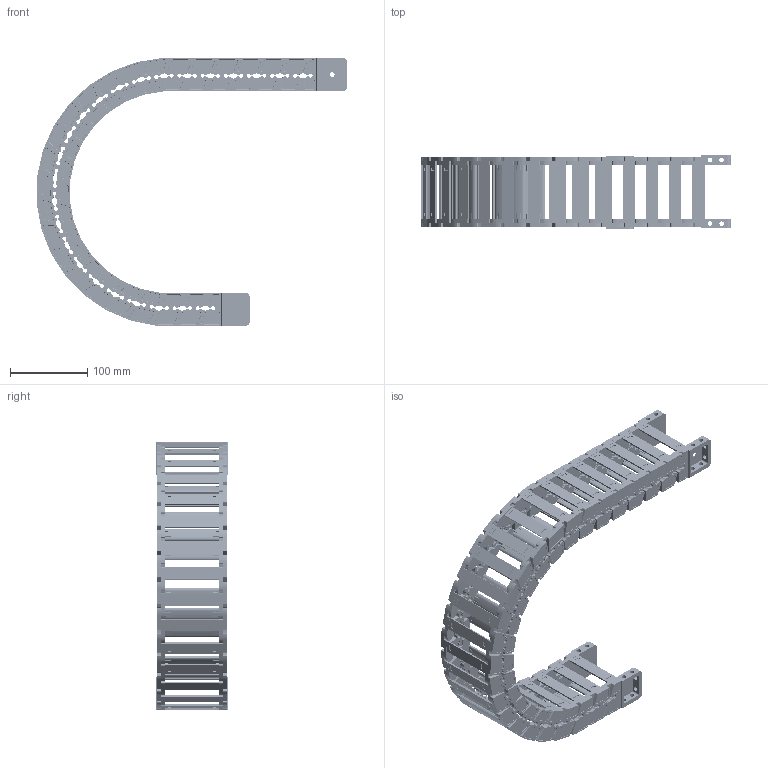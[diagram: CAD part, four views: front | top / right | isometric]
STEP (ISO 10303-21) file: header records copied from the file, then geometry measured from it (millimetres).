
FILE_DESCRIPTION((''),'2;1');
FILE_NAME('JY-35X70-R150_ASM','2025-01-06T09:02:30',('admin'),(''),'CREO PARAMETRIC BY PTC INC, 2021023','CREO PARAMETRIC BY PTC INC, 2021023','');
FILE_SCHEMA(('CONFIG_CONTROL_DESIGN'));
Length unit declared in the file: millimetre
Products named in the file (11): 35XL-L; YP; 35XL-R; ASM0001_ASM; 35-LTT-A-L; 35-LTT-A-R; 35XL-LTT-A_ASM; 35-LTT-B-L; 35-LTT-B-R; 35XL-LTT-B_ASM; JY-35X70-R150_ASM
Assembly tree (37 placements, depth 3):
  JY-35X70-R150_ASM
    ASM0001_ASM  x23
      35XL-L
      YP
      35XL-R
    35XL-LTT-A_ASM
      35-LTT-A-L
      YP  x2
      35-LTT-A-R
    35XL-LTT-B_ASM
      35-LTT-B-L
      YP  x2
      35-LTT-B-R
Bounding box: 402.36 x 94.5 x 347.06 mm (x, y, z)
Volume: 713558.1 mm3; surface area: 425180.2 mm2
Topology: 100 solids, 100 shells, 8160 faces, 24472 edges, 16520 vertices
Faces by surface type: plane 4618, cylinder 2678, cone 528, extrusion 192, bspline 144
Entity records: 27906 total; most frequent: CARTESIAN_POINT 6170, ORIENTED_EDGE 4640, DIRECTION 4369, EDGE_CURVE 2320, VERTEX_POINT 1568, AXIS2_PLACEMENT_3D 1476, VECTOR 1417, LINE 1401
